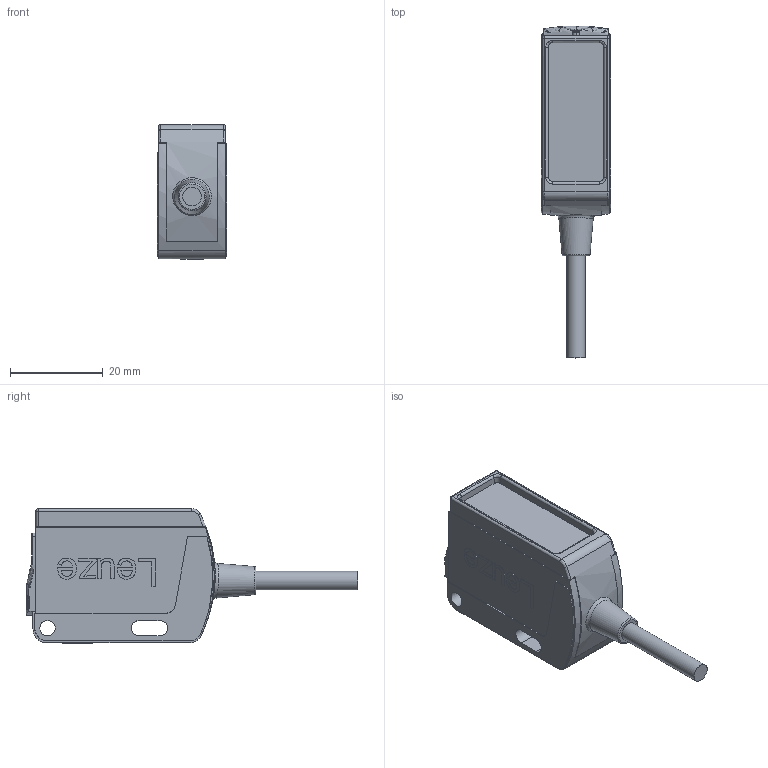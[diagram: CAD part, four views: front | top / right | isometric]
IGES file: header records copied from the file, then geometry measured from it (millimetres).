
Global section: file name: E:\temp\br25b_kab.igs; preprocessor: I-DEAS 3D IGES Translator 11; date: 20061023.112348; units: millimetre
Bounding box: 15 x 71.55 x 29 mm (x, y, z)
Volume: 15554.8 mm3; surface area: 5285.6 mm2
Topology: 1 solids, 1 shells, 300 faces, 800 edges, 536 vertices
Faces by surface type: bspline 300
